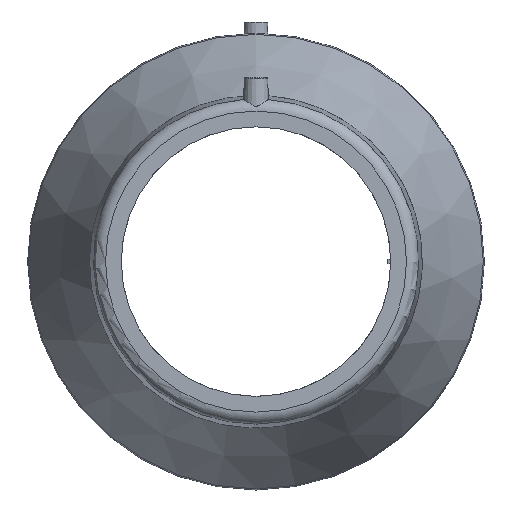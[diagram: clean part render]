
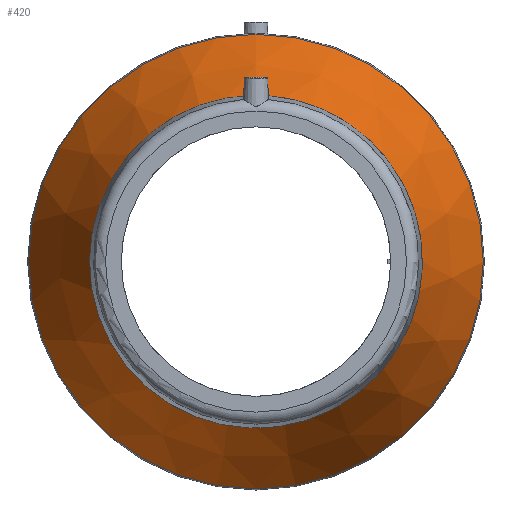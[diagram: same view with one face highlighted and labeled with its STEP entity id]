
A CAD part, left-side view. The second image highlights one B-rep face of the part: STEP entity #420.
In plain terms, the highlighted conical face has half-angle 24.515 degrees and reference radius 152.5 mm.
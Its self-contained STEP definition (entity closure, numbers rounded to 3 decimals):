
#80=CIRCLE('',#480,111.);
#81=CIRCLE('',#481,151.779);
#120=ORIENTED_EDGE('',*,*,#207,.F.);
#121=ORIENTED_EDGE('',*,*,#208,.T.);
#207=EDGE_CURVE('',#250,#250,#80,.T.);
#208=EDGE_CURVE('',#251,#251,#81,.T.);
#250=VERTEX_POINT('',#781);
#251=VERTEX_POINT('',#783);
#292=EDGE_LOOP('',(#120));
#293=EDGE_LOOP('',(#121));
#357=FACE_BOUND('',#292,.T.);
#358=FACE_BOUND('',#293,.T.);
#410=CONICAL_SURFACE('',#479,152.5,0.428);
#420=ADVANCED_FACE('',(#357,#358),#410,.T.);
#479=AXIS2_PLACEMENT_3D('',#779,#564,#565);
#480=AXIS2_PLACEMENT_3D('',#780,#566,#567);
#481=AXIS2_PLACEMENT_3D('',#782,#568,#569);
#564=DIRECTION('',(1.,0.,0.));
#565=DIRECTION('',(0.,0.,-1.));
#566=DIRECTION('',(-1.,0.,0.));
#567=DIRECTION('',(0.,0.,1.));
#568=DIRECTION('',(-1.,0.,0.));
#569=DIRECTION('',(0.,0.,1.));
#779=CARTESIAN_POINT('',(45.5,0.,0.));
#780=CARTESIAN_POINT('',(-45.5,0.,0.));
#781=CARTESIAN_POINT('',(-45.5,0.,111.));
#782=CARTESIAN_POINT('',(43.919,0.,0.));
#783=CARTESIAN_POINT('',(43.919,0.,151.779));
